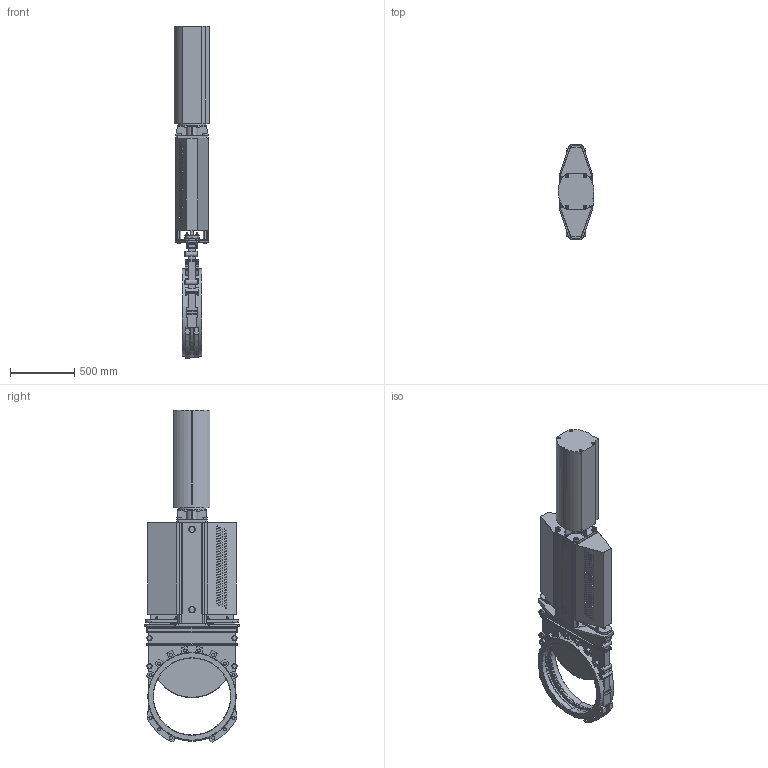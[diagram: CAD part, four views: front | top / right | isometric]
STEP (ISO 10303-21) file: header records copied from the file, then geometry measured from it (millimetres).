
FILE_DESCRIPTION(('STEP AP203'),'1');
FILE_NAME('G:/KONSTRUK/3-d block för CD/XV VALVE/EC/XVE-DN600-PN10-EC250.stp','2013-01-28T13:05:29',(' '),(' '),'Spatial InterOp 3D',' ',' ');
FILE_SCHEMA(('CONFIG_CONTROL_DESIGN'));
Length unit declared in the file: millimetre
Products named in the file (4): 1; 2; 3; 4
Bounding box: 280 x 735 x 2583.99 mm (x, y, z)
Volume: 64426351.2 mm3; surface area: 9005474.7 mm2
Topology: 4 solids, 38 shells, 3173 faces, 8519 edges, 5531 vertices
Faces by surface type: cylinder 1578, plane 1189, cone 306, torus 96, bspline 4
Entity records: 103477 total; most frequent: CARTESIAN_POINT 20945, DIRECTION 18055, ORIENTED_EDGE 16990, EDGE_CURVE 8495, AXIS2_PLACEMENT_3D 6869, VERTEX_POINT 5531, LINE 4317, VECTOR 4317
